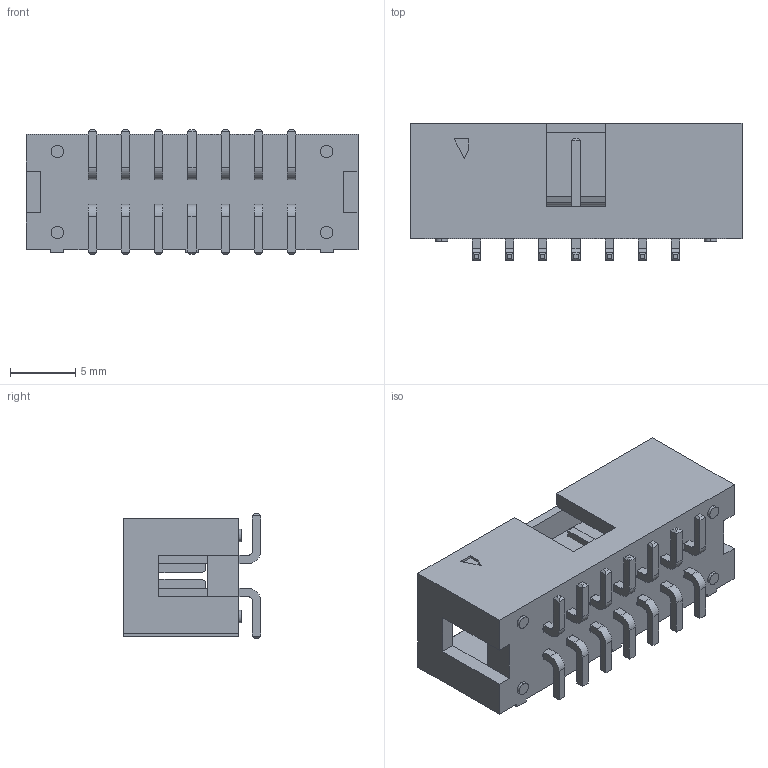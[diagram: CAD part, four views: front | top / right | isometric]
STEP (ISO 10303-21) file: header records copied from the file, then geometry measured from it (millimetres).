
FILE_DESCRIPTION (( 'STEP AP214' ), '1' );
FILE_NAME ('3012-A14G00DBT-P-1091120.STEP', '2020-11-20T06:22:58', ( '' ), ( '' ), 'SwSTEP 2.0', 'SolidWorks 2019', '' );
FILE_SCHEMA (( 'AUTOMOTIVE_DESIGN' ));
Length unit declared in the file: millimetre
Products named in the file (4): 3012-A14G00DBT-P-1091120; 3012-2Contact; Pad-; 3012-A14
Assembly tree (16 placements, depth 2):
  3012-A14G00DBT-P-1091120
    3012-2Contact  x14
    3012-A14
    Pad-
Bounding box: 25.38 x 10.5 x 9.5 mm (x, y, z)
Volume: 1126 mm3; surface area: 2242.8 mm2
Topology: 30 solids, 30 shells, 470 faces, 1107 edges, 698 vertices
Faces by surface type: plane 430, cylinder 40
Entity records: 5226 total; most frequent: CARTESIAN_POINT 890, ORIENTED_EDGE 862, DIRECTION 813, EDGE_CURVE 431, LINE 403, VECTOR 403, VERTEX_POINT 282, AXIS2_PLACEMENT_3D 205
